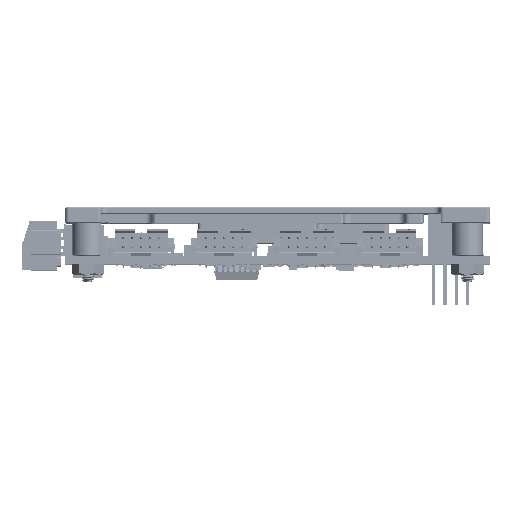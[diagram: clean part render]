
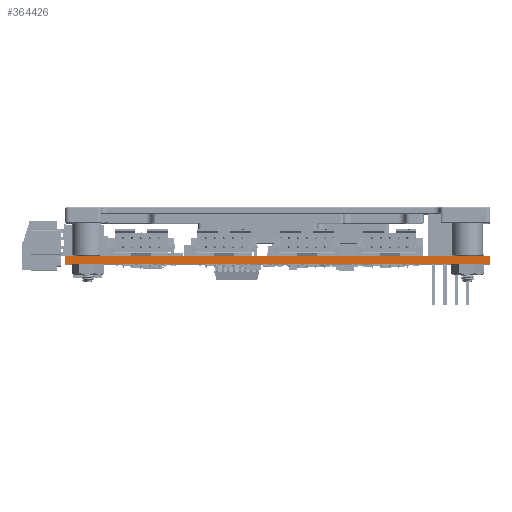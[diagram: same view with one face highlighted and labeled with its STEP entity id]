
A CAD part, top view. The second image highlights one B-rep face of the part: STEP entity #364426.
In plain terms, the highlighted planar face has unit normal (0, 0, 1) as drawn and (-1, 0, 0) by its records, which use the part's own axes.
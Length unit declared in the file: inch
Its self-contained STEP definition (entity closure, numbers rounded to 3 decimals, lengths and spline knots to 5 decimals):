
#10931 = VECTOR ( 'NONE', #516310, 39.37008 ) ;
#13085 = ORIENTED_EDGE ( 'NONE', *, *, #285343, .T. ) ;
#16384 = LINE ( 'NONE', #475901, #10931 ) ;
#25587 = ORIENTED_EDGE ( 'NONE', *, *, #75663, .F. ) ;
#37016 = LINE ( 'NONE', #215497, #143875 ) ;
#41882 = CARTESIAN_POINT ( 'NONE',  ( 0., 0., -0.0742 ) ) ;
#48570 = VERTEX_POINT ( 'NONE', #218656 ) ;
#53907 = ORIENTED_EDGE ( 'NONE', *, *, #83265, .T. ) ;
#75663 = EDGE_CURVE ( 'NONE', #427433, #48570, #16384, .T. ) ;
#83265 = EDGE_CURVE ( 'NONE', #427433, #115728, #414485, .T. ) ;
#93552 = VECTOR ( 'NONE', #286248, 39.37008 ) ;
#95294 = EDGE_CURVE ( 'NONE', #171623, #48570, #37016, .T. ) ;
#115728 = VERTEX_POINT ( 'NONE', #490456 ) ;
#143875 = VECTOR ( 'NONE', #454666, 39.37008 ) ;
#146748 = CARTESIAN_POINT ( 'NONE',  ( 0., 0., -0.0742 ) ) ;
#171623 = VERTEX_POINT ( 'NONE', #356090 ) ;
#178361 = CARTESIAN_POINT ( 'NONE',  ( 0., 3.775, 0. ) ) ;
#181117 = CARTESIAN_POINT ( 'NONE',  ( 0., 3.775, -0.0742 ) ) ;
#215497 = CARTESIAN_POINT ( 'NONE',  ( 0., 3.775, -0.0742 ) ) ;
#218656 = CARTESIAN_POINT ( 'NONE',  ( 0., 3.775, -0.0742 ) ) ;
#221511 = DIRECTION ( 'NONE',  ( 0., 0., -1. ) ) ;
#285343 = EDGE_CURVE ( 'NONE', #115728, #171623, #494308, .T. ) ;
#286248 = DIRECTION ( 'NONE',  ( 0., 0., 1. ) ) ;
#295589 = FACE_OUTER_BOUND ( 'NONE', #438843, .T. ) ;
#356090 = CARTESIAN_POINT ( 'NONE',  ( 0., 3.775, 0. ) ) ;
#364426 = ADVANCED_FACE ( 'NONE', ( #295589 ), #460636, .F. ) ;
#387136 = VECTOR ( 'NONE', #419203, 39.37008 ) ;
#397118 = ORIENTED_EDGE ( 'NONE', *, *, #95294, .T. ) ;
#414485 = LINE ( 'NONE', #41882, #93552 ) ;
#419203 = DIRECTION ( 'NONE',  ( 0., 1., 0. ) ) ;
#427433 = VERTEX_POINT ( 'NONE', #146748 ) ;
#438843 = EDGE_LOOP ( 'NONE', ( #53907, #13085, #397118, #25587 ) ) ;
#454666 = DIRECTION ( 'NONE',  ( 0., 0., -1. ) ) ;
#460636 = PLANE ( 'NONE',  #467050 ) ;
#462389 = DIRECTION ( 'NONE',  ( 1., 0., 0. ) ) ;
#467050 = AXIS2_PLACEMENT_3D ( 'NONE', #181117, #462389, #221511 ) ;
#475901 = CARTESIAN_POINT ( 'NONE',  ( 0., 0., -0.0742 ) ) ;
#490456 = CARTESIAN_POINT ( 'NONE',  ( 0., 0., 0. ) ) ;
#494308 = LINE ( 'NONE', #178361, #387136 ) ;
#516310 = DIRECTION ( 'NONE',  ( 0., 1., 0. ) ) ;
